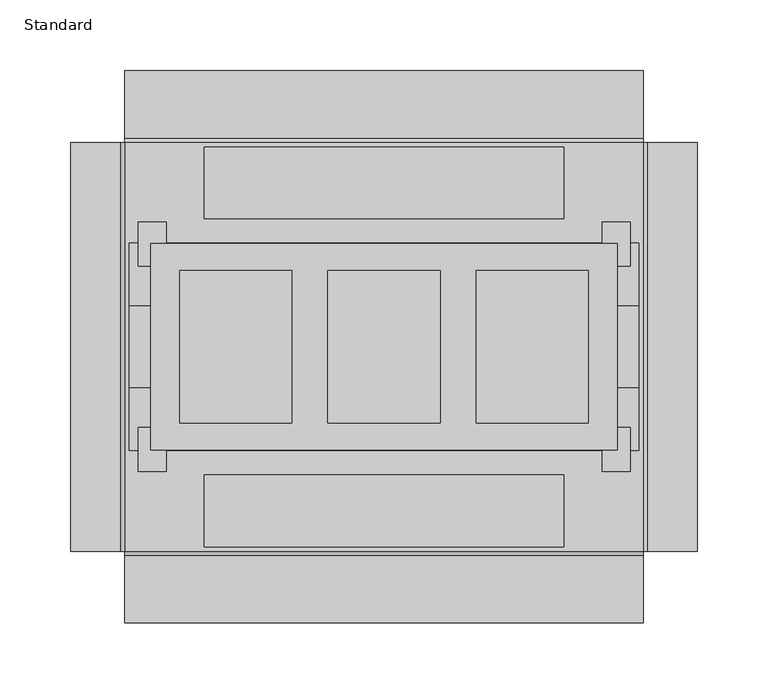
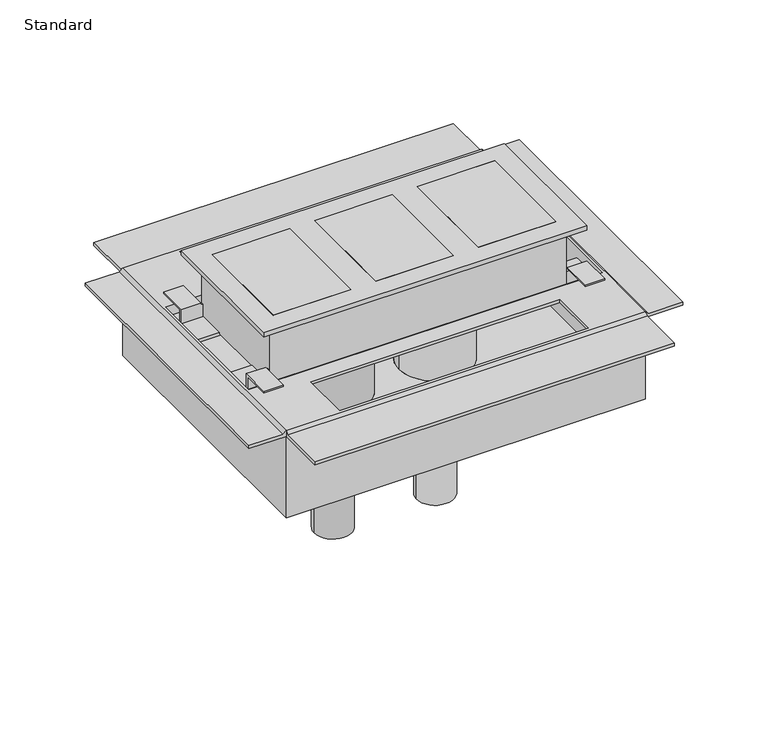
"""IFC4 building model written with IfcOpenShell, lengths in millimetres: proxy geometry, Floor_Box-OmniBox_Series-Wiremold-880_Steel-3_Gang-Fire_Classified : Standard."""

from ifc_helpers import new_model, si_unit, frame, origin, origin_with_axes, place, context, project, spatial, polyline, circle_curve, outline, extrude, faceted_brep, source, transform, mapped, element, save
from ifc_brep_helpers import plane_surface, cylinder_surface, advanced_brep


def standard_0954b91d(model_context):
    return source(origin(), model_context, "Body", "SolidModel", [
        extrude(outline(polyline([(65.1129, 53.975), (144.4879, 53.975), (144.4879, -53.975), (65.1129, -53.975), (65.1129, 53.975)])), frame((0.0, 0.0, -7.9248), z_axis=(0.0, 0.0, 1.0), x_axis=(1.0, 0.0, 0.0)), (0.0, 0.0, 1.0), 12.7),
        extrude(outline(polyline([(-144.4879, 53.975), (-65.1129, 53.975), (-65.1129, -53.975), (-144.4879, -53.975), (-144.4879, 53.975)])), frame((0.0, 0.0, -7.9248), z_axis=(0.0, 0.0, 1.0), x_axis=(1.0, 0.0, 0.0)), (0.0, 0.0, 1.0), 12.7),
        extrude(outline(polyline([(-39.6875, 53.975), (39.6875, 53.975), (39.6875, -53.975), (-39.6875, -53.975), (-39.6875, 53.975)])), frame((0.0, 0.0, -7.9248), z_axis=(0.0, 0.0, 1.0), x_axis=(1.0, 0.0, 0.0)), (0.0, 0.0, 1.0), 12.7),
        extrude(outline(polyline([(165.1, 73.025), (165.1, -73.025), (-165.1, -73.025), (-165.1, 73.025), (165.1, 73.025)]), holes=[polyline([(39.6875, 53.975), (-39.6875, 53.975), (-39.6875, -53.975), (39.6875, -53.975), (39.6875, 53.975)]), polyline([(144.4879, 53.975), (65.1129, 53.975), (65.1129, -53.975), (144.4879, -53.975), (144.4879, 53.975)]), polyline([(-65.1129, 53.975), (-144.4879, 53.975), (-144.4879, -53.975), (-65.1129, -53.975), (-65.1129, 53.975)])]), origin_with_axes(), (0.0, 0.0, 1.0), 4.7752),
        advanced_brep(
        [(33.147, 0.0, -212.8012), (71.247, 0.0, -212.8012), (88.773, 0.0, -212.8012), (15.621, 0.0, -212.8012), (88.773, 0.0, -145.7452), (15.621, 0.0, -145.7452), (88.773, 0.0, -75.0062), (15.621, 0.0, -75.0062), (15.621, 0.0, -142.5702), (88.773, 0.0, -142.5702), (52.197, 0.0, -289.0012), (71.247, 0.0, -289.0012), (33.147, 0.0, -289.0012), (52.197, 0.0, -75.0062), (-15.621, 0.0, -212.8012), (-88.773, 0.0, -212.8012), (-71.247, 0.0, -212.8012), (-33.147, 0.0, -212.8012), (-15.621, 0.0, -145.7452), (-88.773, 0.0, -145.7452), (-15.621, 0.0, -75.0062), (-88.773, 0.0, -75.0062), (-88.773, 0.0, -142.5702), (-15.621, 0.0, -142.5702), (-33.147, 0.0, -289.0012), (-71.247, 0.0, -289.0012), (-52.197, 0.0, -289.0012), (-52.197, 0.0, -75.0062), (183.515, 144.653, -57.4802), (183.515, 144.653, -145.7452), (-183.515, 144.653, -145.7452), (-183.515, 144.653, -57.4802), (-221.615, 144.653, -57.4802), (-221.615, 144.653, -54.3052), (-186.69, 144.653, -54.3052), (-183.515, 144.653, -51.1302), (183.515, 144.653, -51.1302), (186.69, 144.653, -54.3052), (221.615, 144.653, -54.3052), (221.615, 144.653, -57.4802), (183.515, -144.653, -57.4802), (221.615, -144.653, -57.4802), (221.615, -144.653, -54.3052), (186.69, -144.653, -54.3052), (183.515, -144.653, -51.1302), (-183.515, -144.653, -51.1302), (-186.69, -144.653, -54.3052), (-221.615, -144.653, -54.3052), (-221.615, -144.653, -57.4802), (-183.515, -144.653, -57.4802), (-183.515, -144.653, -145.7452), (183.515, -144.653, -145.7452), (183.515, -141.478, -57.4802), (183.515, -76.708, -57.4802), (183.515, -73.533, -57.4802), (183.515, 73.533, -57.4802), (183.515, 76.708, -57.4802), (183.515, 141.478, -57.4802), (180.34, 141.478, -142.5702), (180.34, -141.478, -142.5702), (180.34, -141.478, -57.4802), (180.34, -138.303, -54.3052), (180.34, -76.708, -54.3052), (180.34, -76.708, -65.1002), (180.34, -29.083, -65.1002), (180.34, -29.083, -61.9252), (180.34, -73.533, -61.9252), (180.34, -73.533, -51.1302), (180.34, 73.533, -51.1302), (180.34, 73.533, -61.9252), (180.34, 29.083, -61.9252), (180.34, 29.083, -65.1002), (180.34, 76.708, -65.1002), (180.34, 76.708, -54.3052), (180.34, 138.303, -54.3052), (180.34, 141.478, -57.4802), (-180.34, 141.478, -142.5702), (-180.34, -141.478, -142.5702), (-180.34, 141.478, -57.4802), (-180.34, 138.303, -54.3052), (-180.34, 76.708, -54.3052), (-180.34, 76.708, -65.1002), (-180.34, 29.083, -65.1002), (-180.34, 29.083, -61.9252), (-180.34, 73.533, -61.9252), (-180.34, 73.533, -51.1302), (-180.34, -73.533, -51.1302), (-180.34, -73.533, -61.9252), (-180.34, -29.083, -61.9252), (-180.34, -29.083, -65.1002), (-180.34, -76.708, -65.1002), (-180.34, -76.708, -54.3052), (-180.34, -138.303, -54.3052), (-180.34, -141.478, -57.4802), (-183.515, 141.478, -57.4802), (-183.515, 76.708, -57.4802), (-183.515, 73.533, -57.4802), (-183.515, -73.533, -57.4802), (-183.515, -76.708, -57.4802), (-183.515, -141.478, -57.4802), (127.0, 90.678, -51.1302), (-127.0, 90.678, -51.1302), (-127.0, 141.478, -51.1302), (127.0, 141.478, -51.1302), (-127.0, -141.478, -51.1302), (-127.0, -90.678, -51.1302), (127.0, -90.678, -51.1302), (127.0, -141.478, -51.1302), (-183.515, -147.828, -54.3052), (-183.515, -195.453, -57.4802), (-183.515, -195.453, -54.3052), (-183.515, 147.828, -54.3052), (-183.515, 195.453, -54.3052), (-183.515, 195.453, -57.4802), (183.515, -147.828, -54.3052), (183.515, -195.453, -54.3052), (183.515, -195.453, -57.4802), (183.515, 195.453, -57.4802), (183.515, 195.453, -54.3052), (183.515, 147.828, -54.3052), (-127.0, -141.478, -57.4802), (127.0, -141.478, -57.4802), (127.0, 141.478, -57.4802), (-127.0, 141.478, -57.4802), (127.0, -138.303, -54.3052), (127.0, -90.678, -54.3052), (-127.0, -90.678, -54.3052), (-127.0, -138.303, -54.3052), (127.0, 138.303, -54.3052), (-127.0, 138.303, -54.3052), (-127.0, 90.678, -54.3052), (127.0, 90.678, -54.3052)],
        [
            (0, 1, circle_curve(frame((52.197, 0.0, -212.8012), z_axis=(0.0, 0.0, 1.0), x_axis=(1.0, 0.0, 0.0)), 19.05)),
            (1, 2),
            (2, 3, circle_curve(frame((52.197, 0.0, -212.8012), z_axis=(0.0, 0.0, -1.0), x_axis=(1.0, 0.0, 0.0)), 36.576)),
            (3, 0),
            (1, 0, circle_curve(frame((52.197, 0.0, -212.8012), z_axis=(0.0, 0.0, 1.0), x_axis=(1.0, 0.0, 0.0)), 19.05)),
            (3, 2, circle_curve(frame((52.197, 0.0, -212.8012), z_axis=(0.0, 0.0, -1.0), x_axis=(1.0, 0.0, 0.0)), 36.576)),
            (2, 4),
            (4, 5, circle_curve(frame((52.197, 0.0, -145.7452), z_axis=(0.0, 0.0, -1.0), x_axis=(1.0, 0.0, 0.0)), 36.576)),
            (5, 3),
            (6, 7, circle_curve(frame((52.197, 0.0, -75.0062), z_axis=(0.0, 0.0, -1.0), x_axis=(1.0, 0.0, 0.0)), 36.576)),
            (7, 8),
            (8, 9, circle_curve(frame((52.197, 0.0, -142.5702), z_axis=(0.0, 0.0, 1.0), x_axis=(1.0, 0.0, 0.0)), 36.576)),
            (9, 6),
            (5, 4, circle_curve(frame((52.197, 0.0, -145.7452), z_axis=(0.0, 0.0, -1.0), x_axis=(1.0, 0.0, 0.0)), 36.576)),
            (7, 6, circle_curve(frame((52.197, 0.0, -75.0062), z_axis=(0.0, 0.0, -1.0), x_axis=(1.0, 0.0, 0.0)), 36.576)),
            (9, 8, circle_curve(frame((52.197, 0.0, -142.5702), z_axis=(0.0, 0.0, 1.0), x_axis=(1.0, 0.0, 0.0)), 36.576)),
            (10, 11),
            (11, 12, circle_curve(frame((52.197, 0.0, -289.0012), z_axis=(0.0, 0.0, -1.0), x_axis=(1.0, 0.0, 0.0)), 19.05)),
            (12, 10),
            (12, 11, circle_curve(frame((52.197, 0.0, -289.0012), z_axis=(0.0, 0.0, -1.0), x_axis=(1.0, 0.0, 0.0)), 19.05)),
            (0, 12),
            (11, 1),
            (6, 13),
            (13, 7),
            (14, 15, circle_curve(frame((-52.197, 0.0, -212.8012), z_axis=(0.0, 0.0, -1.0), x_axis=(-1.0, 0.0, 0.0)), 36.576)),
            (15, 16),
            (16, 17, circle_curve(frame((-52.197, 0.0, -212.8012), z_axis=(0.0, 0.0, 1.0), x_axis=(-1.0, 0.0, 0.0)), 19.05)),
            (17, 14),
            (15, 14, circle_curve(frame((-52.197, 0.0, -212.8012), z_axis=(0.0, 0.0, -1.0), x_axis=(-1.0, 0.0, 0.0)), 36.576)),
            (17, 16, circle_curve(frame((-52.197, 0.0, -212.8012), z_axis=(0.0, 0.0, 1.0), x_axis=(-1.0, 0.0, 0.0)), 19.05)),
            (14, 18),
            (18, 19, circle_curve(frame((-52.197, 0.0, -145.7452), z_axis=(0.0, 0.0, -1.0), x_axis=(-1.0, 0.0, 0.0)), 36.576)),
            (19, 15),
            (20, 21, circle_curve(frame((-52.197, 0.0, -75.0062), z_axis=(0.0, 0.0, -1.0), x_axis=(-1.0, 0.0, 0.0)), 36.576)),
            (21, 22),
            (22, 23, circle_curve(frame((-52.197, 0.0, -142.5702), z_axis=(0.0, 0.0, 1.0), x_axis=(-1.0, 0.0, 0.0)), 36.576)),
            (23, 20),
            (19, 18, circle_curve(frame((-52.197, 0.0, -145.7452), z_axis=(0.0, 0.0, -1.0), x_axis=(-1.0, 0.0, 0.0)), 36.576)),
            (21, 20, circle_curve(frame((-52.197, 0.0, -75.0062), z_axis=(0.0, 0.0, -1.0), x_axis=(-1.0, 0.0, 0.0)), 36.576)),
            (23, 22, circle_curve(frame((-52.197, 0.0, -142.5702), z_axis=(0.0, 0.0, 1.0), x_axis=(-1.0, 0.0, 0.0)), 36.576)),
            (24, 25, circle_curve(frame((-52.197, 0.0, -289.0012), z_axis=(0.0, 0.0, -1.0), x_axis=(-1.0, 0.0, 0.0)), 19.05)),
            (25, 26),
            (26, 24),
            (25, 24, circle_curve(frame((-52.197, 0.0, -289.0012), z_axis=(0.0, 0.0, -1.0), x_axis=(-1.0, 0.0, 0.0)), 19.05)),
            (16, 25),
            (24, 17),
            (20, 27),
            (27, 21),
            (28, 29),
            (29, 30),
            (30, 31),
            (31, 28),
            (31, 32),
            (32, 33),
            (33, 34),
            (34, 35),
            (35, 31),
            (36, 37),
            (37, 38),
            (38, 39),
            (39, 28),
            (28, 36),
            (40, 41),
            (41, 42),
            (42, 43),
            (43, 44),
            (44, 40),
            (45, 46),
            (46, 47),
            (47, 48),
            (48, 49),
            (49, 45),
            (49, 50),
            (50, 51),
            (51, 40),
            (40, 49),
            (39, 41),
            (40, 52),
            (52, 53),
            (53, 54),
            (54, 55),
            (55, 56),
            (56, 57),
            (57, 28),
            (38, 42),
            (37, 43),
            (58, 59),
            (59, 60),
            (60, 61),
            (61, 62),
            (62, 63),
            (63, 64),
            (64, 65),
            (65, 66),
            (66, 67),
            (67, 68),
            (68, 69),
            (69, 70),
            (70, 71),
            (71, 72),
            (72, 73),
            (73, 74),
            (74, 75),
            (75, 58),
            (58, 76),
            (76, 77),
            (77, 59),
            (76, 78),
            (78, 79),
            (79, 80),
            (80, 81),
            (81, 82),
            (82, 83),
            (83, 84),
            (84, 85),
            (85, 86),
            (86, 87),
            (87, 88),
            (88, 89),
            (89, 90),
            (90, 91),
            (91, 92),
            (92, 93),
            (93, 77),
            (33, 47),
            (46, 34),
            (32, 48),
            (31, 94),
            (94, 95),
            (95, 96),
            (96, 97),
            (97, 98),
            (98, 99),
            (99, 49),
            (30, 50),
            (29, 51),
            (45, 35),
            (45, 44),
            (44, 36),
            (36, 35),
            (85, 68),
            (67, 86),
            (100, 101),
            (101, 102),
            (102, 103),
            (103, 100),
            (104, 105),
            (105, 106),
            (106, 107),
            (107, 104),
            (108, 45),
            (49, 109),
            (109, 110),
            (110, 108),
            (35, 111),
            (111, 112),
            (112, 113),
            (113, 31),
            (114, 115),
            (115, 116),
            (116, 40),
            (44, 114),
            (28, 117),
            (117, 118),
            (118, 119),
            (119, 36),
            (93, 120),
            (120, 104),
            (107, 121),
            (121, 60),
            (75, 122),
            (122, 103),
            (102, 123),
            (123, 78),
            (111, 119),
            (118, 112),
            (117, 113),
            (116, 109),
            (115, 110),
            (114, 108),
            (66, 87),
            (65, 88),
            (64, 89),
            (63, 90),
            (62, 91),
            (61, 124),
            (124, 125),
            (125, 126),
            (126, 127),
            (127, 92),
            (121, 124),
            (127, 120),
            (74, 128),
            (128, 122),
            (123, 129),
            (129, 79),
            (73, 80),
            (129, 130),
            (130, 131),
            (131, 128),
            (72, 81),
            (71, 82),
            (70, 83),
            (69, 84),
            (130, 101),
            (100, 131),
            (126, 105),
            (106, 125),
        ],
        [
            plane_surface(frame((52.197, 0.0, -212.8012), z_axis=(0.0, 0.0, -1.0), x_axis=(1.0, 0.0, 0.0))),
            cylinder_surface(frame((52.197, 0.0, 223.774), z_axis=(0.0, 0.0, -1.0), x_axis=(1.0, 0.0, 0.0)), 36.576),
            plane_surface(frame((52.197, 0.0, -289.0012), z_axis=(0.0, 0.0, -1.0), x_axis=(1.0, 0.0, 0.0))),
            cylinder_surface(frame((52.197, 0.0, 223.774), z_axis=(0.0, 0.0, -1.0), x_axis=(1.0, 0.0, 0.0)), 19.05),
            plane_surface(frame((52.197, 0.0, -75.0062), z_axis=(0.0, 0.0, 1.0), x_axis=(1.0, 0.0, 0.0))),
            plane_surface(frame((-52.197, 0.0, -212.8012), z_axis=(0.0, 0.0, -1.0), x_axis=(-1.0, 0.0, 0.0))),
            cylinder_surface(frame((-52.197, 0.0, 223.774), z_axis=(0.0, 0.0, 1.0), x_axis=(-1.0, 0.0, 0.0)), 36.576),
            plane_surface(frame((-52.197, 0.0, -289.0012), z_axis=(0.0, 0.0, -1.0), x_axis=(-1.0, 0.0, 0.0))),
            cylinder_surface(frame((-52.197, 0.0, 223.774), z_axis=(0.0, 0.0, 1.0), x_axis=(-1.0, 0.0, 0.0)), 19.05),
            plane_surface(frame((-52.197, 0.0, -75.0062), z_axis=(0.0, 0.0, 1.0), x_axis=(-1.0, 0.0, 0.0))),
            plane_surface(frame((183.515, 144.653, -145.7452), z_axis=(0.0, 1.0, 0.0), x_axis=(0.0, 0.0, -1.0))),
            plane_surface(frame((183.515, -144.653, -145.7452), z_axis=(0.0, -1.0, 0.0), x_axis=(0.0, 0.0, 1.0))),
            plane_surface(frame((221.615, 144.653, -57.4802), z_axis=(0.0, 0.0, -1.0), x_axis=(0.0, -1.0, 0.0))),
            plane_surface(frame((221.615, 144.653, -54.3052), z_axis=(1.0, 0.0, 0.0), x_axis=(0.0, -1.0, 0.0))),
            plane_surface(frame((186.69, 144.653, -54.3052), z_axis=(0.0, 0.0, 1.0), x_axis=(0.0, -1.0, 0.0))),
            plane_surface(frame((180.34, 144.653, -142.5702), z_axis=(-1.0, 0.0, 0.0), x_axis=(0.0, -1.0, 0.0))),
            plane_surface(frame((-180.34, 144.653, -142.5702), z_axis=(0.0, 0.0, 1.0), x_axis=(0.0, -1.0, 0.0))),
            plane_surface(frame((-180.34, 144.653, -51.1302), z_axis=(1.0, 0.0, 0.0), x_axis=(0.0, -1.0, 0.0))),
            plane_surface(frame((-221.615, 144.653, -54.3052), z_axis=(0.0, 0.0, 1.0), x_axis=(0.0, -1.0, 0.0))),
            plane_surface(frame((-221.615, 144.653, -57.4802), z_axis=(-1.0, 0.0, 0.0), x_axis=(0.0, -1.0, 0.0))),
            plane_surface(frame((-183.515, 144.653, -57.4802), z_axis=(0.0, 0.0, -1.0), x_axis=(0.0, -1.0, 0.0))),
            plane_surface(frame((-183.515, 144.653, -145.7452), z_axis=(-1.0, 0.0, 0.0), x_axis=(0.0, -1.0, 0.0))),
            plane_surface(frame((183.515, 144.653, -145.7452), z_axis=(0.0, 0.0, -1.0), x_axis=(0.0, -1.0, 0.0))),
            plane_surface(frame((183.515, 144.653, -57.4802), z_axis=(1.0, 0.0, 0.0), x_axis=(0.0, -1.0, 0.0))),
            plane_surface(frame((-186.69, 144.653, -54.3052), z_axis=(-0.7071067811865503, 0.0, 0.7071067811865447), x_axis=(0.0, -1.0, 0.0))),
            plane_surface(frame((-183.515, 144.653, -51.1302), z_axis=(0.0, 0.0, 1.0), x_axis=(0.0, -1.0, 0.0))),
            plane_surface(frame((183.515, 144.653, -51.1302), z_axis=(0.707106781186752, 0.0, 0.7071067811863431), x_axis=(0.0, -1.0, 0.0))),
            plane_surface(frame((-183.515, -147.828, -54.3052), z_axis=(-1.0, 0.0, 0.0), x_axis=(0.0, 0.7071067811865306, 0.7071067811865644))),
            plane_surface(frame((183.515, -147.828, -54.3052), z_axis=(1.0, 0.0, 0.0), x_axis=(0.0, -0.7071067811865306, -0.7071067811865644))),
            plane_surface(frame((-183.515, -141.478, -57.4802), z_axis=(0.0, 1.0, 0.0), x_axis=(1.0, 0.0, 0.0))),
            plane_surface(frame((-183.515, 141.478, -142.5702), z_axis=(0.0, -1.0, 0.0), x_axis=(1.0, 0.0, 0.0))),
            plane_surface(frame((-183.515, 147.828, -54.3052), z_axis=(0.0, 0.0, 1.0), x_axis=(1.0, 0.0, 0.0))),
            plane_surface(frame((-183.515, 195.453, -54.3052), z_axis=(0.0, 1.0, 0.0), x_axis=(1.0, 0.0, 0.0))),
            plane_surface(frame((-183.515, 195.453, -57.4802), z_axis=(0.0, 0.0, -1.0), x_axis=(1.0, 0.0, 0.0))),
            plane_surface(frame((-183.515, -144.653, -57.4802), z_axis=(0.0, 0.0, -1.0), x_axis=(1.0, 0.0, 0.0))),
            plane_surface(frame((-183.515, -195.453, -57.4802), z_axis=(0.0, -1.0, 0.0), x_axis=(1.0, 0.0, 0.0))),
            plane_surface(frame((-183.515, -195.453, -54.3052), z_axis=(0.0, 0.0, 1.0), x_axis=(1.0, 0.0, 0.0))),
            plane_surface(frame((-183.515, -147.828, -54.3052), z_axis=(0.0, -0.7071067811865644, 0.7071067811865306), x_axis=(1.0, 0.0, 0.0))),
            plane_surface(frame((-183.515, -73.533, -51.1302), z_axis=(0.0, 1.0, 0.0), x_axis=(1.0, 0.0, 0.0))),
            plane_surface(frame((-183.515, -73.533, -61.9252), z_axis=(0.0, 0.0, 1.0), x_axis=(1.0, 0.0, 0.0))),
            plane_surface(frame((-183.515, -29.083, -61.9252), z_axis=(0.0, 1.0, 0.0), x_axis=(1.0, 0.0, 0.0))),
            plane_surface(frame((-183.515, -29.083, -65.1002), z_axis=(0.0, 0.0, -1.0), x_axis=(1.0, 0.0, 0.0))),
            plane_surface(frame((-183.515, -76.708, -65.1002), z_axis=(0.0, -1.0, 0.0), x_axis=(1.0, 0.0, 0.0))),
            plane_surface(frame((-183.515, -76.708, -54.3052), z_axis=(0.0, 0.0, -1.0), x_axis=(1.0, 0.0, 0.0))),
            plane_surface(frame((-183.515, -138.303, -54.3052), z_axis=(0.0, 0.7071067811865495, -0.7071067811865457), x_axis=(1.0, 0.0, 0.0))),
            plane_surface(frame((-183.515, 141.478, -57.4802), z_axis=(0.0, -0.707106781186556, -0.707106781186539), x_axis=(1.0, 0.0, 0.0))),
            plane_surface(frame((-183.515, 138.303, -54.3052), z_axis=(0.0, 0.0, -1.0), x_axis=(1.0, 0.0, 0.0))),
            plane_surface(frame((-183.515, 76.708, -54.3052), z_axis=(0.0, 1.0, 0.0), x_axis=(1.0, 0.0, 0.0))),
            plane_surface(frame((-183.515, 76.708, -65.1002), z_axis=(0.0, 0.0, -1.0), x_axis=(1.0, 0.0, 0.0))),
            plane_surface(frame((-183.515, 29.083, -65.1002), z_axis=(0.0, -1.0, 0.0), x_axis=(1.0, 0.0, 0.0))),
            plane_surface(frame((-183.515, 29.083, -61.9252), z_axis=(0.0, 0.0, 1.0), x_axis=(1.0, 0.0, 0.0))),
            plane_surface(frame((-183.515, 73.533, -61.9252), z_axis=(0.0, -1.0, 0.0), x_axis=(1.0, 0.0, 0.0))),
            plane_surface(frame((-183.515, 144.653, -51.1302), z_axis=(0.0, 0.7071067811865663, 0.7071067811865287), x_axis=(1.0, 0.0, 0.0))),
            plane_surface(frame((-127.0, 90.678, 309.5752), z_axis=(0.0, 1.0, 0.0), x_axis=(0.0, 0.0, -1.0))),
            plane_surface(frame((127.0, 90.678, 309.5752), z_axis=(-1.0, 0.0, 0.0), x_axis=(0.0, 0.0, -1.0))),
            plane_surface(frame((-127.0, 141.478, 309.5752), z_axis=(1.0, 0.0, 0.0), x_axis=(0.0, 0.0, -1.0))),
            plane_surface(frame((-127.0, -90.678, 309.5752), z_axis=(1.0, 0.0, 0.0), x_axis=(0.0, 0.0, -1.0))),
            plane_surface(frame((127.0, -141.478, 309.5752), z_axis=(-1.0, 0.0, 0.0), x_axis=(0.0, 0.0, -1.0))),
            plane_surface(frame((127.0, -90.678, 309.5752), z_axis=(0.0, -1.0, 0.0), x_axis=(0.0, 0.0, -1.0))),
        ],
        [
            (0, [[1, 2, 3, 4]]),
            (0, [[-2, 5, -4, 6]]),
            (1, [[-3, 7, 8, 9]]),
            (1, [[10, 11, 12, 13]]),
            (1, [[-6, -9, 14, -7]]),
            (1, [[15, -13, 16, -11]]),
            (2, [[17, 18, 19]]),
            (2, [[-17, -19, 20]]),
            (3, [[-1, 21, -18, 22]]),
            (3, [[-5, -22, -20, -21]]),
            (4, [[-10, 23, 24]]),
            (4, [[-15, -24, -23]]),
            (5, [[25, 26, 27, 28]]),
            (5, [[-26, 29, -28, 30]]),
            (6, [[-25, 31, 32, 33]]),
            (6, [[34, 35, 36, 37]]),
            (6, [[-29, -33, 38, -31]]),
            (6, [[39, -37, 40, -35]]),
            (7, [[41, 42, 43]]),
            (7, [[-42, 44, -43]]),
            (8, [[-27, 45, -41, 46]]),
            (8, [[-30, -46, -44, -45]]),
            (9, [[-34, 47, 48]]),
            (9, [[-39, -48, -47]]),
            (10, [[49, 50, 51, 52]]),
            (10, [[53, 54, 55, 56, 57]]),
            (10, [[58, 59, 60, 61, 62]]),
            (11, [[63, 64, 65, 66, 67]]),
            (11, [[68, 69, 70, 71, 72]]),
            (11, [[73, 74, 75, 76]]),
            (12, [[-61, 77, -63, 78, 79, 80, 81, 82, 83, 84]]),
            (13, [[-60, 85, -64, -77]]),
            (14, [[-59, 86, -65, -85]]),
            (15, [[87, 88, 89, 90, 91, 92, 93, 94, 95, 96, 97, 98, 99, 100, 101, 102, 103, 104]]),
            (16, [[-87, 105, 106, 107], [-12, -16], [-36, -40]]),
            (17, [[-106, 108, 109, 110, 111, 112, 113, 114, 115, 116, 117, 118, 119, 120, 121, 122, 123, 124]]),
            (18, [[-55, 125, -69, 126]]),
            (19, [[-54, 127, -70, -125]]),
            (20, [[-53, 128, 129, 130, 131, 132, 133, 134, -71, -127]]),
            (21, [[-51, 135, -73, -134, -133, -132, -131, -130, -129, -128]]),
            (22, [[-50, 136, -74, -135], [-8, -14], [-32, -38]]),
            (23, [[-49, -84, -83, -82, -81, -80, -79, -78, -75, -136]]),
            (24, [[-56, -126, -68, 137]]),
            (25, [[138, 139, 140, -137], [-116, 141, -96, 142], [143, 144, 145, 146], [147, 148, 149, 150]]),
            (26, [[-58, -139, -66, -86]]),
            (27, [[151, -72, 152, 153, 154]]),
            (27, [[155, 156, 157, 158, -57]]),
            (28, [[159, 160, 161, -67, 162]]),
            (28, [[163, 164, 165, 166, -62]]),
            (29, [[-88, -107, -124, 167, 168, -150, 169, 170]]),
            (30, [[-104, 171, 172, -145, 173, 174, -108, -105]]),
            (31, [[-156, 175, -165, 176]]),
            (32, [[-157, -176, -164, 177]]),
            (33, [[-158, -177, -163, -52]]),
            (34, [[-152, -76, -161, 178]]),
            (35, [[-153, -178, -160, 179]]),
            (36, [[-154, -179, -159, 180]]),
            (37, [[-151, -180, -162, -138]]),
            (38, [[-142, -95, 181, -117]]),
            (39, [[-181, -94, 182, -118]]),
            (40, [[-182, -93, 183, -119]]),
            (41, [[-183, -92, 184, -120]]),
            (42, [[-184, -91, 185, -121]]),
            (43, [[-185, -90, 186, 187, 188, 189, 190, -122]]),
            (44, [[-89, -170, 191, -186]]),
            (44, [[-123, -190, 192, -167]]),
            (45, [[-103, 193, 194, -171]]),
            (45, [[-109, -174, 195, 196]]),
            (46, [[197, -110, -196, 198, 199, 200, -193, -102]]),
            (47, [[-197, -101, 201, -111]]),
            (48, [[-201, -100, 202, -112]]),
            (49, [[-202, -99, 203, -113]]),
            (50, [[-203, -98, 204, -114]]),
            (51, [[-141, -115, -204, -97]]),
            (52, [[-155, -140, -166, -175]]),
            (53, [[205, -143, 206, -199]]),
            (54, [[-206, -146, -172, -194, -200]]),
            (55, [[-205, -198, -195, -173, -144]]),
            (56, [[207, -147, -168, -192, -189]]),
            (57, [[-169, -149, 208, -187, -191]]),
            (58, [[-207, -188, -208, -148]]),
        ],
    ),
        extrude(outline(polyline([(-151.60625, 59.928125), (151.60625, 59.928125), (151.60625, -59.928125), (-151.60625, -59.928125), (-151.60625, 59.928125)])), frame((0.0, 0.0, -62.7126), z_axis=(0.0, 0.0, 1.0), x_axis=(1.0, 0.0, 0.0)), (0.0, 0.0, 1.0), 62.7126),
        faceted_brep([(154.36215, -88.388825, -46.355), (174.19955, -88.388825, -46.355), (174.19955, -57.1620786, -46.355), (154.36215, -57.1620786, -46.355), (174.19955, -88.388825, -48.0568), (154.36215, -88.388825, -48.0568), (154.36215, -59.928125, -48.0568), (174.19955, -59.928125, -48.0568), (174.19955, -59.928125, -62.7126), (174.19955, -57.1620786, -62.7126), (151.60625, -57.1620786, -62.7126), (151.60625, -57.1620786, -48.0568), (154.36215, -57.1620786, -48.0568), (151.60625, -59.928125, -48.0568), (151.60625, -59.928125, -62.7126)], [[[0, 1, 2, 3]], [[4, 5, 6, 7]], [[1, 0, 5, 4]], [[2, 1, 4, 7, 8, 9]], [[3, 2, 9, 10, 11, 12]], [[0, 3, 12, 6, 5]], [[11, 13, 6, 12]], [[14, 10, 9, 8]], [[14, 8, 7, 6, 13]], [[13, 11, 10, 14]]]),
        faceted_brep([(-153.99385, -88.388825, -46.355), (-153.99385, -57.1620786, -46.355), (-173.83125, -57.1620786, -46.355), (-173.83125, -88.388825, -46.355), (-153.99385, -88.388825, -48.0568), (-173.83125, -88.388825, -48.0568), (-173.83125, -59.928125, -48.0568), (-153.99385, -59.928125, -48.0568), (-153.99385, -57.1620786, -48.0568), (-151.60625, -57.1620786, -48.0568), (-151.60625, -57.1620786, -62.7126), (-173.83125, -57.1620786, -62.7126), (-173.83125, -59.928125, -62.7126), (-151.60625, -59.928125, -48.0568), (-151.60625, -59.928125, -62.7126)], [[[0, 1, 2, 3]], [[4, 5, 6, 7]], [[1, 0, 4, 7, 8]], [[2, 1, 8, 9, 10, 11]], [[3, 2, 11, 12, 6, 5]], [[0, 3, 5, 4]], [[13, 9, 8, 7]], [[14, 12, 11, 10]], [[9, 13, 14, 10]], [[12, 14, 13, 7, 6]]]),
        faceted_brep([(154.36215, 88.369775, -46.355), (154.36215, 57.1620786, -46.355), (174.19955, 57.1620786, -46.355), (174.19955, 88.369775, -46.355), (154.36215, 88.369775, -48.0568), (174.19955, 88.369775, -48.0568), (174.19955, 59.928125, -48.0568), (154.36215, 59.928125, -48.0568), (154.36215, 57.1620786, -48.0568), (151.60625, 57.1620786, -48.0568), (151.60625, 57.1620786, -62.7126), (174.19955, 57.1620786, -62.7126), (174.19955, 59.928125, -62.7126), (151.60625, 59.928125, -48.0568), (151.60625, 59.928125, -62.7126)], [[[0, 1, 2, 3]], [[4, 5, 6, 7]], [[1, 0, 4, 7, 8]], [[2, 1, 8, 9, 10, 11]], [[3, 2, 11, 12, 6, 5]], [[0, 3, 5, 4]], [[13, 9, 8, 7]], [[14, 12, 11, 10]], [[9, 13, 14, 10]], [[12, 14, 13, 7, 6]]]),
        faceted_brep([(-153.99385, 88.369775, -46.355), (-173.83125, 88.369775, -46.355), (-173.83125, 57.1620786, -46.355), (-153.99385, 57.1620786, -46.355), (-173.83125, 88.369775, -48.0568), (-153.99385, 88.369775, -48.0568), (-153.99385, 59.928125, -48.0568), (-173.83125, 59.928125, -48.0568), (-173.83125, 59.928125, -62.7126), (-173.83125, 57.1620786, -62.7126), (-151.60625, 57.1620786, -62.7126), (-151.60625, 57.1620786, -48.0568), (-153.99385, 57.1620786, -48.0568), (-151.60625, 59.928125, -48.0568), (-151.60625, 59.928125, -62.7126)], [[[0, 1, 2, 3]], [[4, 5, 6, 7]], [[1, 0, 5, 4]], [[2, 1, 4, 7, 8, 9]], [[3, 2, 9, 10, 11, 12]], [[0, 3, 12, 6, 5]], [[11, 13, 6, 12]], [[14, 10, 9, 8]], [[14, 8, 7, 6, 13]], [[13, 11, 10, 14]]]),
    ])


if __name__ == "__main__":
    model = new_model("IFC4")
    model_context = context("Model", 3, world=origin())
    ifc_project = project(units=[si_unit("LENGTHUNIT", "METRE", prefix="MILLI")], contexts=[model_context])
    site = spatial("IfcSite", under=ifc_project)
    building = spatial("IfcBuilding", under=site)
    placement = place(None, origin())
    standard_shape = standard_0954b91d(model_context)
    element("IfcBuildingElementProxy", 1, Name="Floor_Box-OmniBox_Series-Wiremold-880_Steel-3_Gang-Fire_Classified : Standard", ObjectType="Floor_Box-OmniBox_Series-Wiremold-880_Steel-3_Gang-Fire_Classified : Standard", at=placement, inside=building, context=model_context, shape_type="MappedRepresentation", body=[
        mapped(standard_shape, transform((0.0, 0.0, 0.0), x_axis=(1.0, 0.0, 0.0), y_axis=(0.0, 1.0, 0.0), z_axis=(0.0, 0.0, 1.0))),
    ])
    save(model, "model.ifc")
